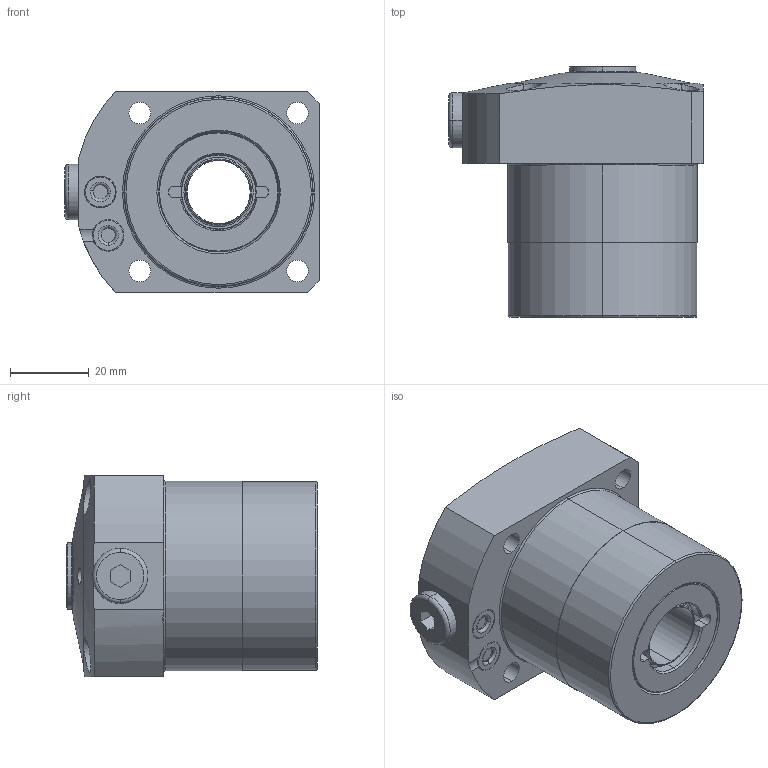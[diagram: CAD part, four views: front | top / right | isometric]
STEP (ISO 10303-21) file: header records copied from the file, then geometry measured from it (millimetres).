
FILE_DESCRIPTION(/* description */ (''),/* implementation_level */ '2;1');
FILE_NAME(/* name */ 'KFSS48-C.stp',/* time_stamp */ '2026-02-06T10:08:12+08:00',/* author */ (''),/* organization */ (''),/* preprocessor_version */ 'ST-DEVELOPER v16.7',/* originating_system */ 'SIEMENS PLM Software NX 12.0',/* authorisation */ '');
FILE_SCHEMA (('AUTOMOTIVE_DESIGN { 1 0 10303 214 3 1 1 1 }'));
Length unit declared in the file: millimetre
Products named in the file (4): KFSS48-C-03-P5; KFSS48-C-02; KFSS48-C-01; LC0483-C-D_step
Assembly tree (4 placements, depth 2):
  LC0483-C-D_step
    KFSS48-C-01
    KFSS48-C-02
    KFSS48-C-03-P5  x2
Bounding box: 64.5 x 63.6 x 51 mm (x, y, z)
Volume: 116183.7 mm3; surface area: 21907.4 mm2
Topology: 4 solids, 4 shells, 183 faces, 418 edges, 255 vertices
Faces by surface type: cylinder 62, plane 47, torus 40, cone 34
Entity records: 5240 total; most frequent: CARTESIAN_POINT 1070, DIRECTION 926, ORIENTED_EDGE 780, AXIS2_PLACEMENT_3D 393, EDGE_CURVE 390, VERTEX_POINT 241, CIRCLE 217, EDGE_LOOP 199
